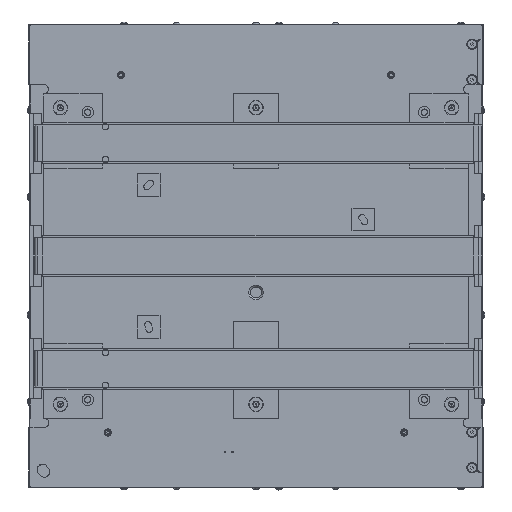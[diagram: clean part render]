
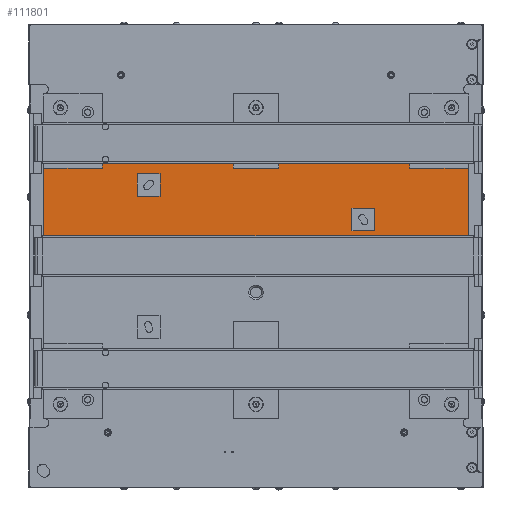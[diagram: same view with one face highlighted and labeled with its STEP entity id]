
A CAD part, front view. The second image highlights one B-rep face of the part: STEP entity #111801.
In plain terms, the highlighted planar face has unit normal (0, -1, 0).
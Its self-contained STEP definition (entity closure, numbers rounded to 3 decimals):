
#2029=DIRECTION('',(1.,0.,0.));
#2030=VECTOR('',#2029,466.4);
#2031=CARTESIAN_POINT('',(-233.2,0.5,22.5));
#2032=LINE('',#2031,#2030);
#17837=DIRECTION('',(0.,0.,1.));
#17838=VECTOR('',#17837,74.);
#17839=CARTESIAN_POINT('',(233.2,0.5,22.5));
#17840=LINE('',#17839,#17838);
#17893=DIRECTION('',(-1.,0.,0.));
#17894=VECTOR('',#17893,144.);
#17895=CARTESIAN_POINT('',(169.,0.5,101.5));
#17896=LINE('',#17895,#17894);
#17907=DIRECTION('',(-1.,0.,0.));
#17908=VECTOR('',#17907,144.);
#17909=CARTESIAN_POINT('',(-25.,0.5,101.5));
#17910=LINE('',#17909,#17908);
#48537=DIRECTION('',(1.,0.,0.));
#48538=VECTOR('',#48537,64.2);
#48539=CARTESIAN_POINT('',(-233.2,0.5,96.5));
#48540=LINE('',#48539,#48538);
#48544=DIRECTION('',(0.,0.,1.));
#48545=VECTOR('',#48544,5.);
#48546=CARTESIAN_POINT('',(-169.,0.5,96.5));
#48547=LINE('',#48546,#48545);
#48551=DIRECTION('',(0.,0.,-1.));
#48552=VECTOR('',#48551,5.);
#48553=CARTESIAN_POINT('',(-25.,0.5,101.5));
#48554=LINE('',#48553,#48552);
#48558=DIRECTION('',(1.,0.,0.));
#48559=VECTOR('',#48558,50.);
#48560=CARTESIAN_POINT('',(-25.,0.5,96.5));
#48561=LINE('',#48560,#48559);
#48565=DIRECTION('',(0.,0.,1.));
#48566=VECTOR('',#48565,5.);
#48567=CARTESIAN_POINT('',(25.,0.5,96.5));
#48568=LINE('',#48567,#48566);
#48572=DIRECTION('',(0.,0.,-1.));
#48573=VECTOR('',#48572,5.);
#48574=CARTESIAN_POINT('',(169.,0.5,101.5));
#48575=LINE('',#48574,#48573);
#48579=DIRECTION('',(1.,0.,0.));
#48580=VECTOR('',#48579,64.2);
#48581=CARTESIAN_POINT('',(169.,0.5,96.5));
#48582=LINE('',#48581,#48580);
#48586=DIRECTION('',(0.,0.,-1.));
#48587=VECTOR('',#48586,25.);
#48588=CARTESIAN_POINT('',(105.5,0.5,52.5));
#48589=LINE('',#48588,#48587);
#48593=DIRECTION('',(1.,0.,0.));
#48594=VECTOR('',#48593,25.);
#48595=CARTESIAN_POINT('',(105.5,0.5,27.5));
#48596=LINE('',#48595,#48594);
#48600=DIRECTION('',(0.,0.,1.));
#48601=VECTOR('',#48600,25.);
#48602=CARTESIAN_POINT('',(130.5,0.5,27.5));
#48603=LINE('',#48602,#48601);
#48607=DIRECTION('',(-1.,0.,0.));
#48608=VECTOR('',#48607,25.);
#48609=CARTESIAN_POINT('',(130.5,0.5,52.5));
#48610=LINE('',#48609,#48608);
#48614=DIRECTION('',(0.,0.,-1.));
#48615=VECTOR('',#48614,25.);
#48616=CARTESIAN_POINT('',(-130.5,0.5,90.5));
#48617=LINE('',#48616,#48615);
#48621=DIRECTION('',(1.,0.,0.));
#48622=VECTOR('',#48621,25.);
#48623=CARTESIAN_POINT('',(-130.5,0.5,65.5));
#48624=LINE('',#48623,#48622);
#48628=DIRECTION('',(0.,0.,1.));
#48629=VECTOR('',#48628,25.);
#48630=CARTESIAN_POINT('',(-105.5,0.5,65.5));
#48631=LINE('',#48630,#48629);
#48635=DIRECTION('',(-1.,0.,0.));
#48636=VECTOR('',#48635,25.);
#48637=CARTESIAN_POINT('',(-105.5,0.5,90.5));
#48638=LINE('',#48637,#48636);
#48649=DIRECTION('',(0.,0.,-1.));
#48650=VECTOR('',#48649,74.);
#48651=CARTESIAN_POINT('',(-233.2,0.5,96.5));
#48652=LINE('',#48651,#48650);
#59187=CARTESIAN_POINT('',(-233.2,0.5,22.5));
#59188=VERTEX_POINT('',#59187);
#59189=CARTESIAN_POINT('',(233.2,0.5,22.5));
#59190=VERTEX_POINT('',#59189);
#60037=CARTESIAN_POINT('',(233.2,0.5,96.5));
#60038=VERTEX_POINT('',#60037);
#60051=CARTESIAN_POINT('',(169.,0.5,101.5));
#60052=VERTEX_POINT('',#60051);
#60053=CARTESIAN_POINT('',(25.,0.5,101.5));
#60054=VERTEX_POINT('',#60053);
#60059=CARTESIAN_POINT('',(-25.,0.5,101.5));
#60060=VERTEX_POINT('',#60059);
#60061=CARTESIAN_POINT('',(-169.,0.5,101.5));
#60062=VERTEX_POINT('',#60061);
#65595=CARTESIAN_POINT('',(169.,0.5,96.5));
#65596=VERTEX_POINT('',#65595);
#65597=CARTESIAN_POINT('',(-233.2,0.5,96.5));
#65598=VERTEX_POINT('',#65597);
#65599=CARTESIAN_POINT('',(-169.,0.5,96.5));
#65600=VERTEX_POINT('',#65599);
#65601=CARTESIAN_POINT('',(-25.,0.5,96.5));
#65602=VERTEX_POINT('',#65601);
#65603=CARTESIAN_POINT('',(25.,0.5,96.5));
#65604=VERTEX_POINT('',#65603);
#65605=CARTESIAN_POINT('',(105.5,0.5,52.5));
#65606=CARTESIAN_POINT('',(105.5,0.5,27.5));
#65607=VERTEX_POINT('',#65605);
#65608=VERTEX_POINT('',#65606);
#65609=CARTESIAN_POINT('',(130.5,0.5,27.5));
#65610=VERTEX_POINT('',#65609);
#65611=CARTESIAN_POINT('',(130.5,0.5,52.5));
#65612=VERTEX_POINT('',#65611);
#65613=CARTESIAN_POINT('',(-130.5,0.5,90.5));
#65614=CARTESIAN_POINT('',(-130.5,0.5,65.5));
#65615=VERTEX_POINT('',#65613);
#65616=VERTEX_POINT('',#65614);
#65617=CARTESIAN_POINT('',(-105.5,0.5,65.5));
#65618=VERTEX_POINT('',#65617);
#65619=CARTESIAN_POINT('',(-105.5,0.5,90.5));
#65620=VERTEX_POINT('',#65619);
#111756=CARTESIAN_POINT('',(0.,0.5,0.));
#111757=DIRECTION('',(0.,-1.,0.));
#111758=DIRECTION('',(0.,0.,1.));
#111759=AXIS2_PLACEMENT_3D('',#111756,#111757,#111758);
#111760=PLANE('',#111759);
#111761=ORIENTED_EDGE('',*,*,#69558,.F.);
#111763=ORIENTED_EDGE('',*,*,#111762,.F.);
#111765=ORIENTED_EDGE('',*,*,#111764,.T.);
#111767=ORIENTED_EDGE('',*,*,#111766,.T.);
#111768=ORIENTED_EDGE('',*,*,#82711,.F.);
#111770=ORIENTED_EDGE('',*,*,#111769,.T.);
#111772=ORIENTED_EDGE('',*,*,#111771,.T.);
#111774=ORIENTED_EDGE('',*,*,#111773,.T.);
#111775=ORIENTED_EDGE('',*,*,#82703,.F.);
#111776=ORIENTED_EDGE('',*,*,#111737,.T.);
#111777=ORIENTED_EDGE('',*,*,#111750,.T.);
#111778=ORIENTED_EDGE('',*,*,#82662,.F.);
#111779=EDGE_LOOP('',(#111761,#111763,#111765,#111767,#111768,#111770,#111772,
#111774,#111775,#111776,#111777,#111778));
#111780=FACE_OUTER_BOUND('',#111779,.F.);
#111782=ORIENTED_EDGE('',*,*,#111781,.T.);
#111784=ORIENTED_EDGE('',*,*,#111783,.T.);
#111786=ORIENTED_EDGE('',*,*,#111785,.T.);
#111788=ORIENTED_EDGE('',*,*,#111787,.T.);
#111789=EDGE_LOOP('',(#111782,#111784,#111786,#111788));
#111790=FACE_BOUND('',#111789,.F.);
#111792=ORIENTED_EDGE('',*,*,#111791,.T.);
#111794=ORIENTED_EDGE('',*,*,#111793,.T.);
#111796=ORIENTED_EDGE('',*,*,#111795,.T.);
#111798=ORIENTED_EDGE('',*,*,#111797,.T.);
#111799=EDGE_LOOP('',(#111792,#111794,#111796,#111798));
#111800=FACE_BOUND('',#111799,.F.);
#69558=EDGE_CURVE('',#59188,#59190,#2032,.T.);
#82662=EDGE_CURVE('',#59190,#60038,#17840,.T.);
#82703=EDGE_CURVE('',#60052,#60054,#17896,.T.);
#82711=EDGE_CURVE('',#60060,#60062,#17910,.T.);
#111737=EDGE_CURVE('',#60052,#65596,#48575,.T.);
#111750=EDGE_CURVE('',#65596,#60038,#48582,.T.);
#111762=EDGE_CURVE('',#65598,#59188,#48652,.T.);
#111764=EDGE_CURVE('',#65598,#65600,#48540,.T.);
#111766=EDGE_CURVE('',#65600,#60062,#48547,.T.);
#111769=EDGE_CURVE('',#60060,#65602,#48554,.T.);
#111771=EDGE_CURVE('',#65602,#65604,#48561,.T.);
#111773=EDGE_CURVE('',#65604,#60054,#48568,.T.);
#111781=EDGE_CURVE('',#65607,#65608,#48589,.T.);
#111783=EDGE_CURVE('',#65608,#65610,#48596,.T.);
#111785=EDGE_CURVE('',#65610,#65612,#48603,.T.);
#111787=EDGE_CURVE('',#65612,#65607,#48610,.T.);
#111791=EDGE_CURVE('',#65615,#65616,#48617,.T.);
#111793=EDGE_CURVE('',#65616,#65618,#48624,.T.);
#111795=EDGE_CURVE('',#65618,#65620,#48631,.T.);
#111797=EDGE_CURVE('',#65620,#65615,#48638,.T.);
#111801=ADVANCED_FACE('',(#111780,#111790,#111800),#111760,.T.);
